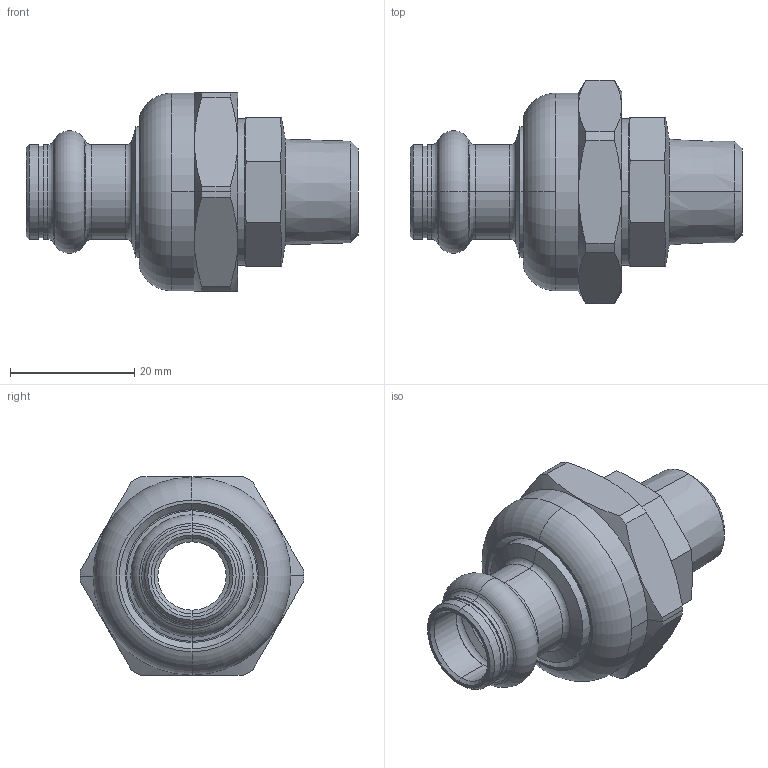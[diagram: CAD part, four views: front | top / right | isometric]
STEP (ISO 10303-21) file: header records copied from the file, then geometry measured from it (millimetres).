
FILE_DESCRIPTION (( 'STEP AP203' ), '1' );
FILE_NAME ('SP4331G Ø12 3-8.STEP', '2017-04-28T07:56:28', ( '' ), ( '' ), 'SwSTEP 2.0', 'SolidWorks 2016', '' );
FILE_SCHEMA (( 'CONFIG_CONTROL_DESIGN' ));
Length unit declared in the file: millimetre
Products named in the file (5): SP4383_3-8 3-4; SP4331G Ø12 3-8; SP4372_12; Ecrou à sertir_G3-4 JPG serti; Joints plats_3-4 pouce
Assembly tree (4 placements, depth 2):
  SP4331G Ø12 3-8
    SP4383_3-8 3-4
    SP4372_12
    Ecrou à sertir_G3-4 JPG serti
    Joints plats_3-4 pouce
Bounding box: 53.4 x 36 x 32 mm (x, y, z)
Volume: 14818.5 mm3; surface area: 11412.1 mm2
Topology: 4 solids, 4 shells, 147 faces, 319 edges, 185 vertices
Faces by surface type: cone 59, cylinder 47, plane 27, torus 14
Entity records: 4661 total; most frequent: CARTESIAN_POINT 880, DIRECTION 756, ORIENTED_EDGE 638, AXIS2_PLACEMENT_3D 321, EDGE_CURVE 319, VERTEX_POINT 185, CIRCLE 167, EDGE_LOOP 160
